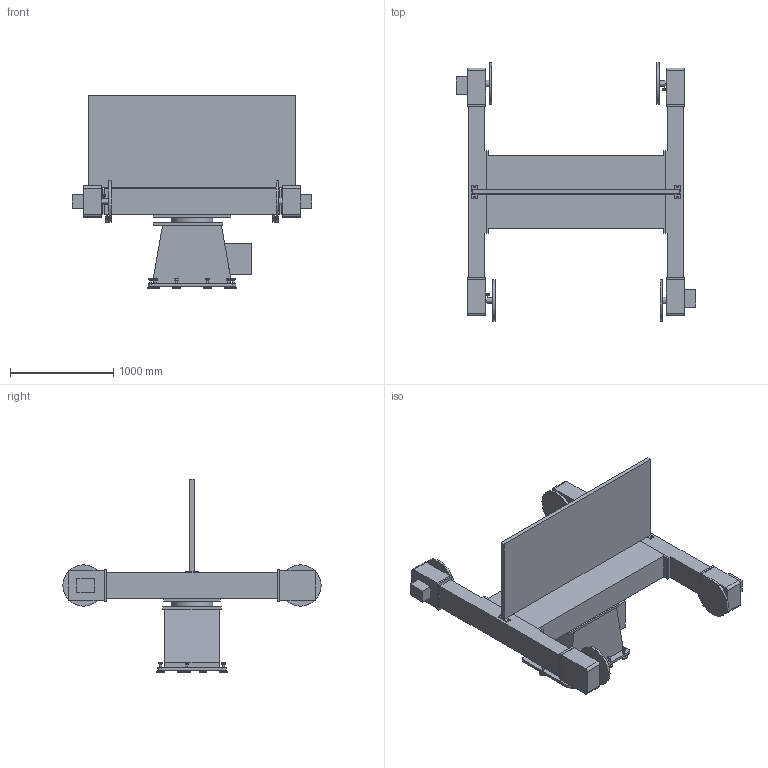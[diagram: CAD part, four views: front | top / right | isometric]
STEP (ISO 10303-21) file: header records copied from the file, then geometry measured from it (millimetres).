
FILE_DESCRIPTION((''),'2;1');
FILE_NAME('H:\Machine construction\Products\Layout symbols\Positioners\VMH\013160-100 VMH-250 S2NM (Low res).stp','2008-03-31T14:23:32',('pbt'),(''),'Autodesk Inventor 2008','Autodesk Inventor 2008','');
FILE_SCHEMA(('AUTOMOTIVE_DESIGN { 1 0 10303 214 1 1 1 1 }'));
Length unit declared in the file: millimetre
Products named in the file (16): 013160- VMH-250 S2NM (iAssy).iam (No details); 013169-100 Y-enhet (1000).iam (No details); 013169-100 Y-enhet (low-res); 013162-100 Vinge 250 kg (iAssy).iam (No details); 114998-100  Mittbalk (Bearbetning) (iAssy).iam (No details); 114998-100 Mittbalk (Bearbetning) (low-res); 115010-100 Arm (bearbetning).iam (No details); 115010-100 Arm (bearbetning) (low-res); 114929-100 Drivdocka 250 kg.iam (No details); 114928-100 Drivdocka 500kg (low-res); 114933-100 Stöddocka.iam (No details); 114933-100 Stöddocka (low-res); 6002115 MC6S 16x40; 6026012 RB M16; 215282-100 Bländskydd.iam (No details); 215282-100 Bländskydd (low-res)
Assembly tree (18 placements, depth 4):
  013160- VMH-250 S2NM (iAssy).iam (No details)
    013169-100 Y-enhet (1000).iam (No details)
      013169-100 Y-enhet (low-res)
    013162-100 Vinge 250 kg (iAssy).iam (No details)
      114998-100  Mittbalk (Bearbetning) (iAssy).iam (No details)
        114998-100 Mittbalk (Bearbetning) (low-res)
      115010-100 Arm (bearbetning).iam (No details)  x2
        115010-100 Arm (bearbetning) (low-res)
      114929-100 Drivdocka 250 kg.iam (No details)  x2
        114928-100 Drivdocka 500kg (low-res)
      114933-100 Stöddocka.iam (No details)  x2
        114933-100 Stöddocka (low-res)
        6002115 MC6S 16x40
        6026012 RB M16
    215282-100 Bländskydd.iam (No details)
      215282-100 Bländskydd (low-res)
Bounding box: 2315 x 2500 x 1874 mm (x, y, z)
Volume: 865733907.4 mm3; surface area: 17087701.6 mm2
Topology: 17 solids, 28 shells, 549 faces, 1143 edges, 764 vertices
Faces by surface type: plane 343, cylinder 91, bspline 72, cone 43
Full cylindrical faces by diameter (mm): 16 x4, 17 x2, 20 x33, 24 x2, 28.19 x11, 30 x2, 50 x2, 60 x1, 64.925 x2, 70 x11, 100 x1, 133 x2, 220 x1, 400 x4, 403.5 x1
Entity records: 12144 total; most frequent: CARTESIAN_POINT 2801, DIRECTION 1758, ORIENTED_EDGE 1478, EDGE_CURVE 739, AXIS2_PLACEMENT_3D 688, EDGE_LOOP 680, VERTEX_POINT 559, FACE_OUTER_BOUND 446
